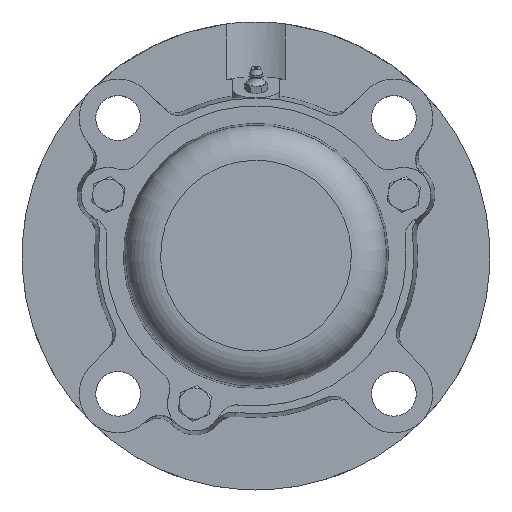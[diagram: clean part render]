
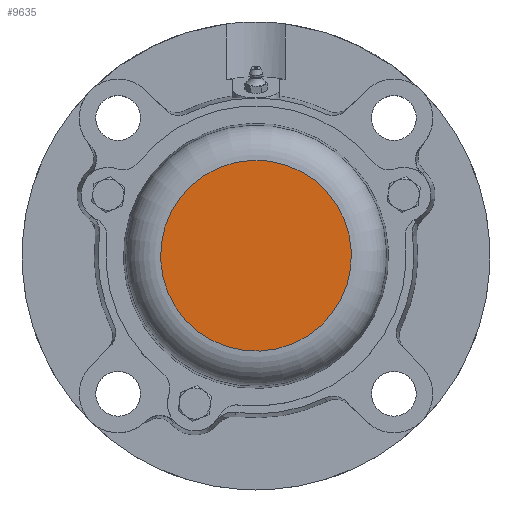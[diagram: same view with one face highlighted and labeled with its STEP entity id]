
A CAD part, top view. The second image highlights one B-rep face of the part: STEP entity #9635.
In plain terms, the highlighted planar face has unit normal (0, 0, 1).
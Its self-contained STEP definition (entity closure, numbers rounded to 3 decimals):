
#9604=CARTESIAN_POINT('',(-48.947,0.0,45.0));
#9605=VERTEX_POINT('',#9604);
#9606=CARTESIAN_POINT('',(0.0,0.0,45.0));
#9607=DIRECTION('',(0.0,0.0,-1.0));
#9608=DIRECTION('',(1.0,0.0,0.0));
#9609=AXIS2_PLACEMENT_3D('',#9606,#9607,#9608);
#9610=CIRCLE('',#9609,48.947);
#9611=EDGE_CURVE('',#9605,#9605,#9610,.T.);
#9627=CARTESIAN_POINT('',(0.0,0.0,45.0));
#9628=DIRECTION('',(0.0,0.0,-1.0));
#9629=DIRECTION('',(-1.0,0.0,0.0));
#9630=AXIS2_PLACEMENT_3D('',#9627,#9628,#9629);
#9631=PLANE('',#9630);
#9632=ORIENTED_EDGE('',*,*,#9611,.F.);
#9633=EDGE_LOOP('',(#9632));
#9634=FACE_OUTER_BOUND('',#9633,.T.);
#9635=ADVANCED_FACE('',(#9634),#9631,.F.);
